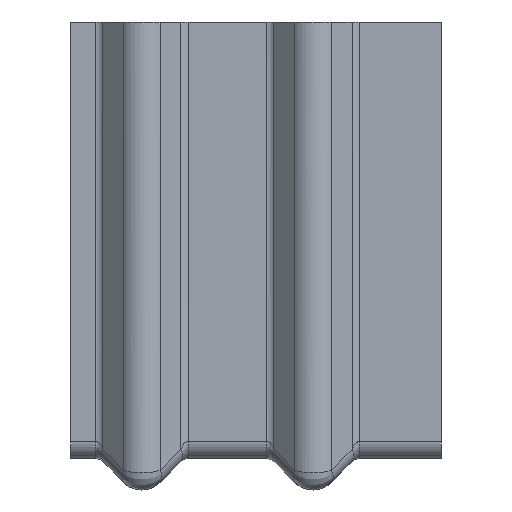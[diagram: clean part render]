
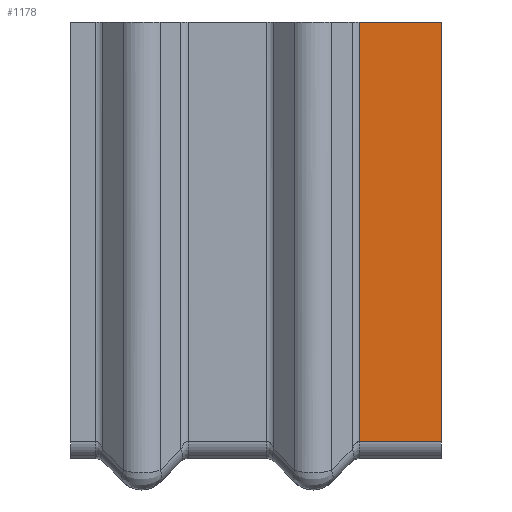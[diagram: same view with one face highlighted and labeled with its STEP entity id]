
A CAD part, left-side view. The second image highlights one B-rep face of the part: STEP entity #1178.
In plain terms, the highlighted planar face has unit normal (-1, 0, 0).
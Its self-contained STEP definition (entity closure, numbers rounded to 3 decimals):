
#25 = CARTESIAN_POINT ( 'NONE',  ( -153., 28.822, 4.5 ) ) ;
#59 = AXIS2_PLACEMENT_3D ( 'NONE', #2643, #2654, #1256 ) ;
#138 = LINE ( 'NONE', #2003, #558 ) ;
#329 = VERTEX_POINT ( 'NONE', #25 ) ;
#460 = EDGE_CURVE ( 'NONE', #329, #2344, #2689, .T. ) ;
#541 = VECTOR ( 'NONE', #2059, 1000. ) ;
#545 = PLANE ( 'NONE',  #59 ) ;
#558 = VECTOR ( 'NONE', #1064, 1000. ) ;
#567 = EDGE_CURVE ( 'NONE', #941, #803, #1243, .T. ) ;
#803 = VERTEX_POINT ( 'NONE', #2290 ) ;
#941 = VERTEX_POINT ( 'NONE', #1412 ) ;
#1064 = DIRECTION ( 'NONE',  ( 0., 0., 1. ) ) ;
#1178 = ADVANCED_FACE ( 'NONE', ( #1463 ), #545, .F. ) ;
#1227 = LINE ( 'NONE', #2082, #2401 ) ;
#1239 = CARTESIAN_POINT ( 'NONE',  ( -153., 0., 4.5 ) ) ;
#1243 = LINE ( 'NONE', #1820, #541 ) ;
#1245 = EDGE_LOOP ( 'NONE', ( #2206, #2796, #2561, #2317 ) ) ;
#1256 = DIRECTION ( 'NONE',  ( 0., 0., -1. ) ) ;
#1277 = DIRECTION ( 'NONE',  ( 0., -1., 0. ) ) ;
#1412 = CARTESIAN_POINT ( 'NONE',  ( -153., 28.822, 151.5 ) ) ;
#1463 = FACE_OUTER_BOUND ( 'NONE', #1245, .T. ) ;
#1471 = VECTOR ( 'NONE', #1277, 1000. ) ;
#1773 = EDGE_CURVE ( 'NONE', #329, #941, #1227, .T. ) ;
#1820 = CARTESIAN_POINT ( 'NONE',  ( -153., 0., 151.5 ) ) ;
#2003 = CARTESIAN_POINT ( 'NONE',  ( -153., 0., -1.5 ) ) ;
#2036 = EDGE_CURVE ( 'NONE', #2344, #803, #138, .T. ) ;
#2059 = DIRECTION ( 'NONE',  ( 0., -1., 0. ) ) ;
#2082 = CARTESIAN_POINT ( 'NONE',  ( -153., 28.822, -1.5 ) ) ;
#2203 = CARTESIAN_POINT ( 'NONE',  ( -153., 0., 4.5 ) ) ;
#2206 = ORIENTED_EDGE ( 'NONE', *, *, #1773, .F. ) ;
#2290 = CARTESIAN_POINT ( 'NONE',  ( -153., 0., 151.5 ) ) ;
#2317 = ORIENTED_EDGE ( 'NONE', *, *, #567, .F. ) ;
#2327 = DIRECTION ( 'NONE',  ( 0., 0., 1. ) ) ;
#2344 = VERTEX_POINT ( 'NONE', #1239 ) ;
#2401 = VECTOR ( 'NONE', #2327, 1000. ) ;
#2561 = ORIENTED_EDGE ( 'NONE', *, *, #2036, .T. ) ;
#2643 = CARTESIAN_POINT ( 'NONE',  ( -153., 0., -1.5 ) ) ;
#2654 = DIRECTION ( 'NONE',  ( 1., 0., 0. ) ) ;
#2689 = LINE ( 'NONE', #2203, #1471 ) ;
#2796 = ORIENTED_EDGE ( 'NONE', *, *, #460, .T. ) ;
